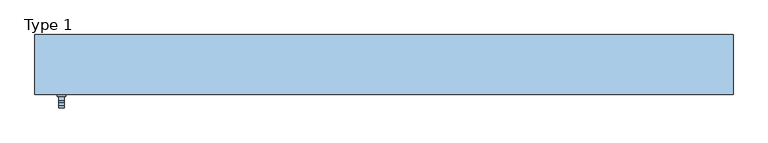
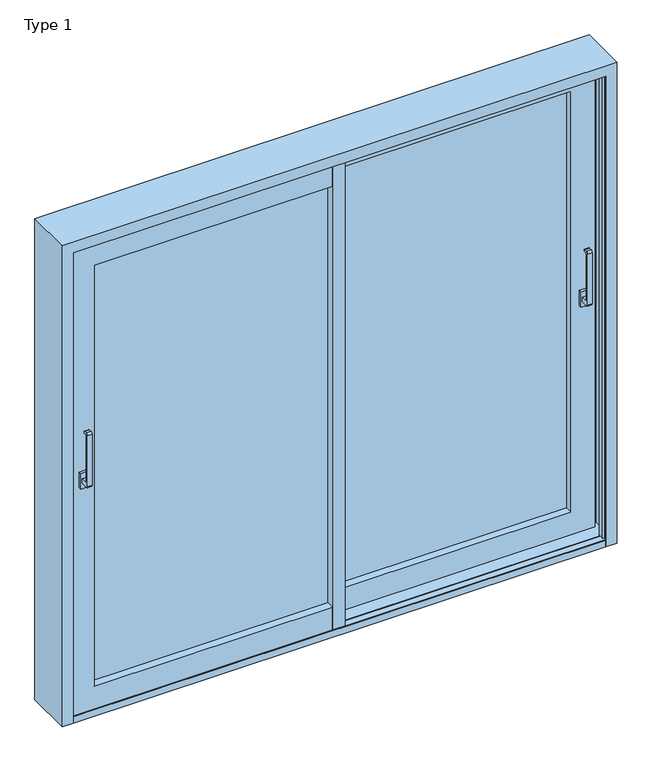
"""IFC4 building model written with IfcOpenShell, lengths in millimetres: window geometry, ETEM_ES70_Double_Fly Screen_NI_Lift_Sliding_FR : Type 1."""

from ifc_helpers import new_model, si_unit, point, frame, frame_2d, origin, place, context, project, spatial, polyline, circle_curve, ellipse_curve, trimmed, segment, composite_curve, outline, extrude, faceted_brep, source, transform, mapped, element, save
from ifc_brep_helpers import plane_surface, cylinder_surface, revolved_surface, advanced_brep


def type_1_b3d38bae(model_context):
    return source(origin(), model_context, "Body", "SolidModel", [
        extrude(outline(polyline([(1123.5, 7.6), (1093.5, 7.6), (1093.5, 20.6), (1123.5, 20.6), (1123.5, 7.6)])), frame((0.0, 0.0, 1065.0), z_axis=(0.0, 0.0, 1.0), x_axis=(1.0, 0.0, 0.0)), (0.0, 0.0, 1.0), 70.0),
        extrude(outline(composite_curve([segment(polyline([(7.6, 1090.0), (-23.9736848, 1090.0)]), True, "CONTINUOUS"), segment(trimmed(circle_curve(frame_2d((-23.9736848, 1098.4263152)), 8.4263152), [point((-23.9736848, 1090.0))], [point((-32.4, 1098.4263152))], False, "CARTESIAN"), True, "CONTINUOUS"), segment(polyline([(-32.4, 1098.4263152), (-32.4, 1331.5736848)]), True, "CONTINUOUS"), segment(trimmed(circle_curve(frame_2d((-23.9736848, 1331.5736848)), 8.4263152), [point((-32.4, 1331.5736848))], [point((-23.9736848, 1340.0))], False, "CARTESIAN"), True, "CONTINUOUS"), segment(polyline([(-23.9736848, 1340.0), (-12.4, 1340.0)]), True, "CONTINUOUS"), segment(trimmed(circle_curve(frame_2d((-12.4, 1335.0)), 5.0), [point((-12.4, 1340.0))], [point((-12.4, 1330.0))], False, "CARTESIAN"), True, "CONTINUOUS"), segment(polyline([(-12.4, 1330.0), (-18.8644661, 1330.0)]), True, "CONTINUOUS"), segment(trimmed(circle_curve(frame_2d((-18.8644661, 1326.4644661)), 3.5355339), [point((-18.8644661, 1330.0))], [point((-22.4, 1326.4644661))], True, "CARTESIAN"), True, "CONTINUOUS"), segment(polyline([(-22.4, 1326.4644661), (-22.4, 1113.5355339)]), True, "CONTINUOUS"), segment(trimmed(circle_curve(frame_2d((-18.8644661, 1113.5355339)), 3.5355339), [point((-22.4, 1113.5355339))], [point((-18.8644661, 1110.0))], True, "CARTESIAN"), True, "CONTINUOUS"), segment(polyline([(-18.8644661, 1110.0), (7.6, 1110.0), (7.6, 1090.0)]), True, "CONTINUOUS")], self_intersect=False)), frame((1098.5, 0.0, 0.0), z_axis=(1.0, 0.0, 0.0), x_axis=(0.0, 1.0, 0.0)), (0.0, 0.0, 1.0), 20.0),
        extrude(outline(polyline([(-1093.5, -82.4), (-1123.5, -82.4), (-1123.5, -69.4), (-1093.5, -69.4), (-1093.5, -82.4)])), frame((0.0, 0.0, 1065.0), z_axis=(0.0, 0.0, 1.0), x_axis=(1.0, 0.0, 0.0)), (0.0, 0.0, 1.0), 70.0),
        extrude(outline(composite_curve([segment(polyline([(-82.4, 1090.0), (-113.9736848, 1090.0)]), True, "CONTINUOUS"), segment(trimmed(circle_curve(frame_2d((-113.9736848, 1098.4263152)), 8.4263152), [point((-113.9736848, 1090.0))], [point((-122.4, 1098.4263152))], False, "CARTESIAN"), True, "CONTINUOUS"), segment(polyline([(-122.4, 1098.4263152), (-122.4, 1331.5736848)]), True, "CONTINUOUS"), segment(trimmed(circle_curve(frame_2d((-113.9736848, 1331.5736848)), 8.4263152), [point((-122.4, 1331.5736848))], [point((-113.9736848, 1340.0))], False, "CARTESIAN"), True, "CONTINUOUS"), segment(polyline([(-113.9736848, 1340.0), (-102.4, 1340.0)]), True, "CONTINUOUS"), segment(trimmed(circle_curve(frame_2d((-102.4, 1335.0)), 5.0), [point((-102.4, 1340.0))], [point((-102.4, 1330.0))], False, "CARTESIAN"), True, "CONTINUOUS"), segment(polyline([(-102.4, 1330.0), (-108.8644661, 1330.0)]), True, "CONTINUOUS"), segment(trimmed(circle_curve(frame_2d((-108.8644661, 1326.4644661)), 3.5355339), [point((-108.8644661, 1330.0))], [point((-112.4, 1326.4644661))], True, "CARTESIAN"), True, "CONTINUOUS"), segment(polyline([(-112.4, 1326.4644661), (-112.4, 1113.5355339)]), True, "CONTINUOUS"), segment(trimmed(circle_curve(frame_2d((-108.8644661, 1113.5355339)), 3.5355339), [point((-112.4, 1113.5355339))], [point((-108.8644661, 1110.0))], True, "CARTESIAN"), True, "CONTINUOUS"), segment(polyline([(-108.8644661, 1110.0), (-82.4, 1110.0), (-82.4, 1090.0)]), True, "CONTINUOUS")], self_intersect=False)), frame((-1118.5, 0.0, 0.0), z_axis=(1.0, 0.0, 0.0), x_axis=(0.0, 1.0, 0.0)), (0.0, 0.0, 1.0), 20.0),
        faceted_brep([(-27.0, -69.4, 133.0647316), (-27.0, -69.4, 30.0647316), (-27.0, -57.0, 30.0647316), (-27.0, -57.0, 61.1647316), (-27.0, -11.8, 61.1647316), (-27.0, -11.8, 30.0647316), (-27.0, 0.6, 30.0647316), (-27.0, 0.6, 133.0647316), (-1058.0, -69.4, 133.0647316), (-1058.0, -69.4, 2058.0), (-27.0, -69.4, 2058.0), (-27.0, -69.4, 2161.0), (-1161.0, -69.4, 2161.0), (-1161.0, -69.4, 30.0647316), (-1161.0, -57.0, 30.0647316), (-1161.0, -57.0, 2161.0), (-27.0, -57.0, 2161.0), (-27.0, -57.0, 2129.9), (-1129.9, -57.0, 2129.9), (-1129.9, -57.0, 61.1647316), (-1129.9, -11.8, 61.1647316), (-1129.9, -11.8, 2129.9), (-27.0, -11.8, 2129.9), (-27.0, -11.8, 2161.0), (-1161.0, -11.8, 2161.0), (-1161.0, -11.8, 30.0647316), (-1161.0, 0.6, 30.0647316), (-1161.0, 0.6, 2161.0), (-27.0, 0.6, 2161.0), (-27.0, 0.6, 2058.0), (-1058.0, 0.6, 2058.0), (-1058.0, 0.6, 133.0647316)], [[[0, 1, 2, 3, 4, 5, 6, 7]], [[1, 0, 8, 9, 10, 11, 12, 13]], [[2, 1, 13, 14]], [[3, 2, 14, 15, 16, 17, 18, 19]], [[4, 3, 19, 20]], [[5, 4, 20, 21, 22, 23, 24, 25]], [[6, 5, 25, 26]], [[7, 6, 26, 27, 28, 29, 30, 31]], [[0, 7, 31, 8]], [[8, 31, 30, 9]], [[14, 13, 12, 15]], [[20, 19, 18, 21]], [[26, 25, 24, 27]], [[10, 29, 28, 23, 22, 17, 16, 11]], [[15, 12, 11, 16]], [[21, 18, 17, 22]], [[27, 24, 23, 28]], [[9, 30, 29, 10]]]),
        extrude(outline(polyline([(27.0, -69.3992454), (-27.0, -69.3992454), (-27.0, 0.6007546), (18.6, 0.6007546), (18.6, 16.6007546), (27.0, 16.6007546), (27.0, -69.3992454)])), frame((0.0, 0.0, 30.0647316), z_axis=(0.0, 0.0, 1.0), x_axis=(1.0, 0.0, 0.0)), (0.0, 0.0, 1.0), 2130.9352684),
        extrude(outline(polyline([(-27.0, 90.6007546), (27.0, 90.6007546), (27.0, 20.6007546), (-18.6, 20.6007546), (-18.6, 4.6007546), (-27.0, 4.6007546), (-27.0, 90.6007546)])), frame((0.0, 0.0, 30.0647316), z_axis=(0.0, 0.0, 1.0), x_axis=(1.0, 0.0, 0.0)), (0.0, 0.0, 1.0), 2130.9352684),
        extrude(outline(polyline([(-27.0, -35.3992409), (-1058.0, -35.3992409), (-1058.0, -29.3992409), (-27.0, -29.3992409), (-27.0, -35.3992409)])), frame((0.0, 0.0, 133.0647316), z_axis=(0.0, 0.0, 1.0), x_axis=(1.0, 0.0, 0.0)), (0.0, 0.0, 1.0), 1924.9352684),
        extrude(outline(polyline([(27.0, 82.6007591), (1058.0, 82.6007591), (1058.0, 76.6007591), (27.0, 76.6007591), (27.0, 82.6007591)])), frame((0.0, 0.0, 133.0647316), z_axis=(0.0, 0.0, 1.0), x_axis=(1.0, 0.0, 0.0)), (0.0, 0.0, 1.0), 1924.9352684),
        faceted_brep([(-1200.0, -76.0, 0.0), (-1200.0, 130.0, 0.0), (-1183.7, 130.0, 0.0), (-1183.7, 118.1, 0.0), (-1152.0, 118.1, 0.0), (-1152.0, 109.1, 0.0), (-1183.7, 109.1, 0.0), (-1183.7, 60.1, 0.0), (-1160.0, 60.1, 0.0), (-1160.0, 74.1, 0.0), (-1152.0, 74.1, 0.0), (-1152.0, 51.1, 0.0), (-1183.7, 51.1, 0.0), (-1183.7, -29.9, 0.0), (-1152.0, -29.9, 0.0), (-1152.0, -52.9, 0.0), (-1160.0, -52.9, 0.0), (-1160.0, -38.9, 0.0), (-1183.7, -38.9, 0.0), (-1183.7, -72.2, 0.0), (-1152.0, -72.2, 0.0), (-1152.0, -76.0, 0.0), (-1200.0, -76.0, 2200.0), (-1200.0, 130.0, 2200.0), (1200.0, 130.0, 2200.0), (1200.0, 130.0, 0.0), (1183.7, 130.0, 0.0), (1183.7, 130.0, 2183.7), (-1183.7, 130.0, 2183.7), (-1183.7, 118.1, 2183.7), (1183.7, 118.1, 2183.7), (1183.7, 118.1, 0.0), (1152.0, 118.1, 0.0), (1152.0, 118.1, 2152.0), (-1152.0, 118.1, 2152.0), (-1152.0, 109.1, 2152.0), (1152.0, 109.1, 2152.0), (1152.0, 109.1, 0.0), (1183.7, 109.1, 0.0), (1183.7, 109.1, 2183.7), (-1183.7, 109.1, 2183.7), (-1183.7, 60.1, 2183.7), (1183.7, 60.1, 2183.7), (1183.7, 60.1, 0.0), (1160.0, 60.1, 0.0), (1160.0, 60.1, 2160.0), (-1160.0, 60.1, 2160.0), (-1160.0, 74.1, 2160.0), (1160.0, 74.1, 2160.0), (1160.0, 74.1, 0.0), (1152.0, 74.1, 0.0), (1152.0, 74.1, 2152.0), (-1152.0, 74.1, 2152.0), (-1152.0, 51.1, 2152.0), (1152.0, 51.1, 2152.0), (1152.0, 51.1, 0.0), (1183.7, 51.1, 0.0), (1183.7, 51.1, 2183.7), (-1183.7, 51.1, 2183.7), (-1183.7, -29.9, 2183.7), (1183.7, -29.9, 2183.7), (1183.7, -29.9, 0.0), (1152.0, -29.9, 0.0), (1152.0, -29.9, 2152.0), (-1152.0, -29.9, 2152.0), (-1152.0, -52.9, 2152.0), (1152.0, -52.9, 2152.0), (1152.0, -52.9, 0.0), (1160.0, -52.9, 0.0), (1160.0, -52.9, 2160.0), (-1160.0, -52.9, 2160.0), (-1160.0, -38.9, 2160.0), (1160.0, -38.9, 2160.0), (1160.0, -38.9, 0.0), (1183.7, -38.9, 0.0), (1183.7, -38.9, 2183.7), (-1183.7, -38.9, 2183.7), (-1183.7, -72.2, 2183.7), (1183.7, -72.2, 2183.7), (1183.7, -72.2, 0.0), (1152.0, -72.2, 0.0), (1152.0, -72.2, 2152.0), (-1152.0, -72.2, 2152.0), (-1152.0, -76.0, 2152.0), (1152.0, -76.0, 2152.0), (1152.0, -76.0, 0.0), (1200.0, -76.0, 0.0), (1200.0, -76.0, 2200.0)], [[[0, 1, 2, 3, 4, 5, 6, 7, 8, 9, 10, 11, 12, 13, 14, 15, 16, 17, 18, 19, 20, 21]], [[0, 22, 23, 1]], [[2, 1, 23, 24, 25, 26, 27, 28]], [[3, 2, 28, 29]], [[4, 3, 29, 30, 31, 32, 33, 34]], [[5, 4, 34, 35]], [[6, 5, 35, 36, 37, 38, 39, 40]], [[7, 6, 40, 41]], [[8, 7, 41, 42, 43, 44, 45, 46]], [[9, 8, 46, 47]], [[10, 9, 47, 48, 49, 50, 51, 52]], [[11, 10, 52, 53]], [[12, 11, 53, 54, 55, 56, 57, 58]], [[13, 12, 58, 59]], [[14, 13, 59, 60, 61, 62, 63, 64]], [[15, 14, 64, 65]], [[16, 15, 65, 66, 67, 68, 69, 70]], [[17, 16, 70, 71]], [[18, 17, 71, 72, 73, 74, 75, 76]], [[19, 18, 76, 77]], [[20, 19, 77, 78, 79, 80, 81, 82]], [[21, 20, 82, 83]], [[0, 21, 83, 84, 85, 86, 87, 22]], [[25, 86, 85, 80, 79, 74, 73, 68, 67, 62, 61, 56, 55, 50, 49, 44, 43, 38, 37, 32, 31, 26]], [[87, 86, 25, 24]], [[84, 81, 80, 85]], [[78, 75, 74, 79]], [[72, 69, 68, 73]], [[66, 63, 62, 67]], [[60, 57, 56, 61]], [[54, 51, 50, 55]], [[48, 45, 44, 49]], [[42, 39, 38, 43]], [[36, 33, 32, 37]], [[30, 27, 26, 31]], [[23, 22, 87, 24]], [[41, 40, 39, 42]], [[47, 46, 45, 48]], [[53, 52, 51, 54]], [[59, 58, 57, 60]], [[65, 64, 63, 66]], [[71, 70, 69, 72]], [[77, 76, 75, 78]], [[83, 82, 81, 84]], [[29, 28, 27, 30]], [[35, 34, 33, 36]]]),
        extrude(outline(polyline([(27.0, 60.6007591), (1058.0, 60.6007591), (1058.0, 54.6007591), (27.0, 54.6007591), (27.0, 60.6007591)])), frame((0.0, 0.0, 133.0647316), z_axis=(0.0, 0.0, 1.0), x_axis=(1.0, 0.0, 0.0)), (0.0, 0.0, 1.0), 1924.9352684),
        extrude(outline(polyline([(-27.0, -13.3992409), (-1058.0, -13.3992409), (-1058.0, -7.3992409), (-27.0, -7.3992409), (-27.0, -13.3992409)])), frame((0.0, 0.0, 133.0647316), z_axis=(0.0, 0.0, 1.0), x_axis=(1.0, 0.0, 0.0)), (0.0, 0.0, 1.0), 1924.9352684),
        extrude(outline(polyline([(-38.0, 102.6007546), (-1096.0, 102.6007546), (-1096.0, 103.6007546), (-38.0, 103.6007546), (-38.0, 102.6007546)])), frame((0.0, 0.0, 95.0647316), z_axis=(0.0, 0.0, 1.0), x_axis=(1.0, 0.0, 0.0)), (0.0, 0.0, 1.0), 2000.9352684),
        advanced_brep(
        [(-30.6, 98.8, 2103.4), (-30.6, 102.6138518, 2103.4), (-30.6, 102.6138518, 87.6647316), (-30.6, 98.8, 87.6647316), (-1103.4, 102.6138518, 2103.4), (-1103.4, 102.6138518, 87.6647316), (-38.0, 102.6138518, 95.0647316), (-1096.0, 102.6138518, 95.0647316), (-1096.0, 102.6138518, 2096.0), (-38.0, 102.6138518, 2096.0), (-1103.4, 98.8, 87.6647316), (-28.6, 98.8, 2105.4), (-1105.4, 98.8, 2105.4), (-1105.4, 98.8, 85.6647316), (-28.6, 98.8, 85.6647316), (-1103.4, 98.8, 2103.4), (-28.6543214, 99.9975359, 2105.3456786), (-28.6543214, 99.9975359, 85.719053), (-1105.3456786, 99.9975359, 85.719053), (-29.2, 100.5, 2104.8), (-29.2, 100.5, 86.2647316), (-1104.8, 100.5, 86.2647316), (-29.2, 106.6, 2104.8), (-29.2, 106.6, 86.2647316), (-1104.8, 106.6, 86.2647316), (-8.7, 106.6, 2125.3), (-1125.3, 106.6, 2125.3), (-1125.3, 106.6, 65.7647316), (-8.7, 106.6, 65.7647316), (-1104.8, 106.6, 2104.8), (-8.7, 97.6, 2125.3), (-8.7, 97.6, 65.7647316), (-1125.3, 97.6, 65.7647316), (27.0, 97.6, 2161.0), (-1161.0, 97.6, 2161.0), (-1161.0, 97.6, 30.0647316), (27.0, 97.6, 30.0647316), (-1125.3, 97.6, 2125.3), (27.0, 104.8, 2161.0), (27.0, 104.8, 30.0647316), (-1161.0, 104.8, 30.0647316), (-1161.0, 104.8, 2161.0), (14.8, 104.8, 2148.8), (-1148.8, 104.8, 2148.8), (-1148.8, 104.8, 42.2647316), (14.8, 104.8, 42.2647316), (14.8, 122.4, 2148.8), (14.8, 122.4, 42.2647316), (-1148.8, 122.4, 42.2647316), (27.0, 122.4, 2161.0), (-1161.0, 122.4, 2161.0), (-1161.0, 122.4, 30.0647316), (27.0, 122.4, 30.0647316), (-1148.8, 122.4, 2148.8), (27.0, 129.6, 2161.0), (27.0, 129.6, 30.0647316), (-1161.0, 129.6, 30.0647316), (-1161.0, 129.6, 2161.0), (-8.7, 129.6, 2125.3), (-1125.3, 129.6, 2125.3), (-1125.3, 129.6, 65.7647316), (-8.7, 129.6, 65.7647316), (-8.7, 120.4, 2125.3), (-8.7, 120.4, 65.7647316), (-1125.3, 120.4, 65.7647316), (-1125.3, 120.4, 2125.3), (-25.5, 120.4, 2108.5), (-1108.5, 120.4, 2108.5), (-1108.5, 120.4, 82.5647316), (-25.5, 120.4, 82.5647316), (-25.5, 129.6, 2108.5), (-25.5, 129.6, 82.5647316), (-1108.5, 129.6, 82.5647316), (-1108.5, 129.6, 2108.5), (-38.0, 129.6, 2096.0), (-1096.0, 129.6, 2096.0), (-1096.0, 129.6, 95.0647316), (-38.0, 129.6, 95.0647316), (-1105.3456786, 99.9975359, 2105.3456786), (-1104.8, 100.5, 2104.8)],
        [
            (0, 1),
            (1, 2),
            (2, 3),
            (3, 0),
            (1, 4),
            (4, 5),
            (5, 2),
            (6, 7),
            (7, 8),
            (8, 9),
            (9, 6),
            (5, 10),
            (10, 3),
            (11, 12),
            (12, 13),
            (13, 14),
            (14, 11),
            (10, 15),
            (15, 0),
            (16, 11, ellipse_curve(frame((-28.6, 99.4, 2105.4), z_axis=(0.7071067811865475, 0.0, -0.7071067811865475), x_axis=(0.7071067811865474, 0.0, 0.7071067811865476)), 0.8485281, 0.6)),
            (14, 17, ellipse_curve(frame((-28.6, 99.4, 85.6647316), z_axis=(0.7071067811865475, 0.0, 0.7071067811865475), x_axis=(-0.7071067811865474, 0.0, 0.7071067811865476)), 0.8485281, 0.6)),
            (17, 16),
            (13, 18, ellipse_curve(frame((-1105.4, 99.4, 85.6647316), z_axis=(0.7071067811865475, 0.0, -0.7071067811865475), x_axis=(0.7071067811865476, 0.0, 0.7071067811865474)), 0.8485281, 0.6)),
            (18, 17),
            (19, 16, ellipse_curve(frame((-28.7, 100.5, 2105.3), z_axis=(-0.7071067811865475, 0.0, 0.7071067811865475), x_axis=(-0.7071067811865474, 0.0, -0.7071067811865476)), 0.7071068, 0.5)),
            (17, 20, ellipse_curve(frame((-28.7, 100.5, 85.7647316), z_axis=(-0.7071067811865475, 0.0, -0.7071067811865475), x_axis=(0.7071067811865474, 0.0, -0.7071067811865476)), 0.7071068, 0.5)),
            (20, 19),
            (18, 21, ellipse_curve(frame((-1105.3, 100.5, 85.7647316), z_axis=(-0.7071067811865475, 0.0, 0.7071067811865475), x_axis=(-0.7071067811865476, 0.0, -0.7071067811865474)), 0.7071068, 0.5)),
            (21, 20),
            (22, 19),
            (20, 23),
            (23, 22),
            (21, 24),
            (24, 23),
            (25, 26),
            (26, 27),
            (27, 28),
            (28, 25),
            (24, 29),
            (29, 22),
            (30, 25),
            (28, 31),
            (31, 30),
            (27, 32),
            (32, 31),
            (33, 34),
            (34, 35),
            (35, 36),
            (36, 33),
            (32, 37),
            (37, 30),
            (38, 33),
            (36, 39),
            (39, 38),
            (35, 40),
            (40, 39),
            (40, 41),
            (41, 38),
            (42, 43),
            (43, 44),
            (44, 45),
            (45, 42),
            (46, 42),
            (45, 47),
            (47, 46),
            (44, 48),
            (48, 47),
            (49, 50),
            (50, 51),
            (51, 52),
            (52, 49),
            (48, 53),
            (53, 46),
            (54, 49),
            (52, 55),
            (55, 54),
            (51, 56),
            (56, 55),
            (56, 57),
            (57, 54),
            (58, 59),
            (59, 60),
            (60, 61),
            (61, 58),
            (62, 58),
            (61, 63),
            (63, 62),
            (60, 64),
            (64, 63),
            (64, 65),
            (65, 62),
            (66, 67),
            (67, 68),
            (68, 69),
            (69, 66),
            (70, 66),
            (69, 71),
            (71, 70),
            (68, 72),
            (72, 71),
            (72, 73),
            (73, 70),
            (74, 75),
            (75, 76),
            (76, 77),
            (77, 74),
            (9, 74),
            (77, 6),
            (76, 7),
            (4, 15),
            (12, 78, ellipse_curve(frame((-1105.4, 99.4, 2105.4), z_axis=(-0.7071067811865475, 0.0, -0.7071067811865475), x_axis=(0.7071067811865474, 0.0, -0.7071067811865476)), 0.8485281, 0.6)),
            (78, 18),
            (78, 79, ellipse_curve(frame((-1105.3, 100.5, 2105.3), z_axis=(0.7071067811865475, 0.0, 0.7071067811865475), x_axis=(-0.7071067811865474, 0.0, 0.7071067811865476)), 0.7071068, 0.5)),
            (79, 21),
            (79, 29),
            (26, 37),
            (34, 41),
            (43, 53),
            (50, 57),
            (59, 65),
            (67, 73),
            (75, 8),
            (16, 78),
            (19, 79),
        ],
        [
            plane_surface(frame((-30.6, 102.6138518, 2103.4), z_axis=(-1.0, 0.0, 0.0), x_axis=(0.0, 0.0, -1.0))),
            plane_surface(frame((-1096.0, 102.6138518, 2096.0), z_axis=(0.0, -1.0, 0.0), x_axis=(1.0, 0.0, 0.0))),
            plane_surface(frame((-30.6, 102.6138518, 87.6647316), z_axis=(0.0, 0.0, 1.0), x_axis=(-1.0, 0.0, 0.0))),
            plane_surface(frame((-1103.4, 98.8, 2103.4), z_axis=(0.0, -1.0, 0.0), x_axis=(1.0, 0.0, 0.0))),
            cylinder_surface(frame((-28.6, 99.4, 2161.0), z_axis=(0.0, 0.0, 1.0), x_axis=(1.0, 0.0, 0.0)), 0.6),
            cylinder_surface(frame((27.0, 99.4, 85.6647316), z_axis=(1.0, 0.0, 0.0), x_axis=(0.0, 0.0, -1.0)), 0.6),
            revolved_surface(polyline([(-28.2, 100.5, 85.26473158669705), (-28.2, 100.5, 2105.8000000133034)]), (-28.7, 100.5, 2161.0), (0.0, 0.0, -1.0)),
            revolved_surface(polyline([(-1105.8000000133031, 100.5, 85.2647316), (-28.19999998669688, 100.5, 85.2647316)]), (27.0, 100.5, 85.7647316), (-1.0, 0.0, 0.0)),
            plane_surface(frame((-29.2, 100.5, 2104.8), z_axis=(1.0, 0.0, 0.0), x_axis=(0.0, 0.0, -1.0))),
            plane_surface(frame((-29.2, 100.5, 86.2647316), z_axis=(0.0, 0.0, -1.0), x_axis=(-1.0, 0.0, 0.0))),
            plane_surface(frame((-1104.8, 106.6, 2104.8), z_axis=(0.0, -1.0, 0.0), x_axis=(1.0, 0.0, 0.0))),
            plane_surface(frame((-8.7, 106.6, 2125.3), z_axis=(-1.0, 0.0, 0.0), x_axis=(0.0, 0.0, -1.0))),
            plane_surface(frame((-8.7, 106.6, 65.7647316), z_axis=(0.0, 0.0, 1.0), x_axis=(-1.0, 0.0, 0.0))),
            plane_surface(frame((-1125.3, 97.6, 2125.3), z_axis=(0.0, -1.0, 0.0), x_axis=(1.0, 0.0, 0.0))),
            plane_surface(frame((27.0, 97.6, 2161.0), z_axis=(1.0, 0.0, 0.0), x_axis=(0.0, 0.0, -1.0))),
            plane_surface(frame((27.0, 97.6, 30.0647316), z_axis=(0.0, 0.0, -1.0), x_axis=(-1.0, 0.0, 0.0))),
            plane_surface(frame((-1161.0, 104.8, 2161.0), z_axis=(0.0, 1.0, 0.0), x_axis=(1.0, 0.0, 0.0))),
            plane_surface(frame((14.8, 104.8, 2148.8), z_axis=(1.0, 0.0, 0.0), x_axis=(0.0, 0.0, -1.0))),
            plane_surface(frame((14.8, 104.8, 42.2647316), z_axis=(0.0, 0.0, -1.0), x_axis=(-1.0, 0.0, 0.0))),
            plane_surface(frame((-1148.8, 122.4, 2148.8), z_axis=(0.0, -1.0, 0.0), x_axis=(1.0, 0.0, 0.0))),
            plane_surface(frame((27.0, 122.4, 2161.0), z_axis=(1.0, 0.0, 0.0), x_axis=(0.0, 0.0, -1.0))),
            plane_surface(frame((27.0, 122.4, 30.0647316), z_axis=(0.0, 0.0, -1.0), x_axis=(-1.0, 0.0, 0.0))),
            plane_surface(frame((-1161.0, 129.6, 2161.0), z_axis=(0.0, 1.0, 0.0), x_axis=(1.0, 0.0, 0.0))),
            plane_surface(frame((-8.7, 129.6, 2125.3), z_axis=(-1.0, 0.0, 0.0), x_axis=(0.0, 0.0, -1.0))),
            plane_surface(frame((-8.7, 129.6, 65.7647316), z_axis=(0.0, 0.0, 1.0), x_axis=(-1.0, 0.0, 0.0))),
            plane_surface(frame((-1125.3, 120.4, 2125.3), z_axis=(0.0, 1.0, 0.0), x_axis=(1.0, 0.0, 0.0))),
            plane_surface(frame((-25.5, 120.4, 2108.5), z_axis=(1.0, 0.0, 0.0), x_axis=(0.0, 0.0, -1.0))),
            plane_surface(frame((-25.5, 120.4, 82.5647316), z_axis=(0.0, 0.0, -1.0), x_axis=(-1.0, 0.0, 0.0))),
            plane_surface(frame((-1108.5, 129.6, 2108.5), z_axis=(0.0, 1.0, 0.0), x_axis=(1.0, 0.0, 0.0))),
            plane_surface(frame((-38.0, 129.6, 2096.0), z_axis=(-1.0, 0.0, 0.0), x_axis=(0.0, 0.0, -1.0))),
            plane_surface(frame((-38.0, 129.6, 95.0647316), z_axis=(0.0, 0.0, 1.0), x_axis=(-1.0, 0.0, 0.0))),
            plane_surface(frame((-1103.4, 102.6138518, 87.6647316), z_axis=(1.0, 0.0, 0.0), x_axis=(0.0, 0.0, 1.0))),
            cylinder_surface(frame((-1105.4, 99.4, 30.0647316), z_axis=(0.0, 0.0, -1.0), x_axis=(-1.0, 0.0, 0.0)), 0.6),
            revolved_surface(polyline([(-1105.8, 100.5, 2105.8000000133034), (-1105.8, 100.5, 85.26473158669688)]), (-1105.3, 100.5, 30.0647316), (0.0, 0.0, 1.0)),
            plane_surface(frame((-1104.8, 100.5, 86.2647316), z_axis=(-1.0, 0.0, 0.0), x_axis=(0.0, 0.0, 1.0))),
            plane_surface(frame((-1125.3, 106.6, 65.7647316), z_axis=(1.0, 0.0, 0.0), x_axis=(0.0, 0.0, 1.0))),
            plane_surface(frame((-1161.0, 97.6, 30.0647316), z_axis=(-1.0, 0.0, 0.0), x_axis=(0.0, 0.0, 1.0))),
            plane_surface(frame((-1148.8, 104.8, 42.2647316), z_axis=(-1.0, 0.0, 0.0), x_axis=(0.0, 0.0, 1.0))),
            plane_surface(frame((-1161.0, 122.4, 30.0647316), z_axis=(-1.0, 0.0, 0.0), x_axis=(0.0, 0.0, 1.0))),
            plane_surface(frame((-1125.3, 129.6, 65.7647316), z_axis=(1.0, 0.0, 0.0), x_axis=(0.0, 0.0, 1.0))),
            plane_surface(frame((-1108.5, 120.4, 82.5647316), z_axis=(-1.0, 0.0, 0.0), x_axis=(0.0, 0.0, 1.0))),
            plane_surface(frame((-1096.0, 129.6, 95.0647316), z_axis=(1.0, 0.0, 0.0), x_axis=(0.0, 0.0, 1.0))),
            plane_surface(frame((-1103.4, 102.6138518, 2103.4), z_axis=(0.0, 0.0, -1.0), x_axis=(1.0, 0.0, 0.0))),
            cylinder_surface(frame((-1161.0, 99.4, 2105.4), z_axis=(-1.0, 0.0, 0.0), x_axis=(0.0, 0.0, 1.0)), 0.6),
            revolved_surface(polyline([(-28.199999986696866, 100.5, 2105.8), (-1105.8000000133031, 100.5, 2105.8)]), (-1161.0, 100.5, 2105.3), (1.0, 0.0, 0.0)),
            plane_surface(frame((-1104.8, 100.5, 2104.8), z_axis=(0.0, 0.0, 1.0), x_axis=(1.0, 0.0, 0.0))),
            plane_surface(frame((-1125.3, 106.6, 2125.3), z_axis=(0.0, 0.0, -1.0), x_axis=(1.0, 0.0, 0.0))),
            plane_surface(frame((-1161.0, 97.6, 2161.0), z_axis=(0.0, 0.0, 1.0), x_axis=(1.0, 0.0, 0.0))),
            plane_surface(frame((-1148.8, 104.8, 2148.8), z_axis=(0.0, 0.0, 1.0), x_axis=(1.0, 0.0, 0.0))),
            plane_surface(frame((-1161.0, 122.4, 2161.0), z_axis=(0.0, 0.0, 1.0), x_axis=(1.0, 0.0, 0.0))),
            plane_surface(frame((-1125.3, 129.6, 2125.3), z_axis=(0.0, 0.0, -1.0), x_axis=(1.0, 0.0, 0.0))),
            plane_surface(frame((-1108.5, 120.4, 2108.5), z_axis=(0.0, 0.0, 1.0), x_axis=(1.0, 0.0, 0.0))),
            plane_surface(frame((-1096.0, 129.6, 2096.0), z_axis=(0.0, 0.0, -1.0), x_axis=(1.0, 0.0, 0.0))),
        ],
        [
            (0, [[1, 2, 3, 4]]),
            (1, [[5, 6, 7, -2], [8, 9, 10, 11]]),
            (2, [[-3, -7, 12, 13]]),
            (3, [[14, 15, 16, 17], [-13, 18, 19, -4]]),
            (4, [[20, -17, 21, 22]]),
            (5, [[-21, -16, 23, 24]]),
            (6, [[25, -22, 26, 27]]),
            (7, [[-26, -24, 28, 29]]),
            (8, [[30, -27, 31, 32]]),
            (9, [[-31, -29, 33, 34]]),
            (10, [[35, 36, 37, 38], [-34, 39, 40, -32]]),
            (11, [[41, -38, 42, 43]]),
            (12, [[-42, -37, 44, 45]]),
            (13, [[46, 47, 48, 49], [-45, 50, 51, -43]]),
            (14, [[52, -49, 53, 54]]),
            (15, [[-53, -48, 55, 56]]),
            (16, [[-56, 57, 58, -54], [59, 60, 61, 62]]),
            (17, [[63, -62, 64, 65]]),
            (18, [[-64, -61, 66, 67]]),
            (19, [[68, 69, 70, 71], [-67, 72, 73, -65]]),
            (20, [[74, -71, 75, 76]]),
            (21, [[-75, -70, 77, 78]]),
            (22, [[-78, 79, 80, -76], [81, 82, 83, 84]]),
            (23, [[85, -84, 86, 87]]),
            (24, [[-86, -83, 88, 89]]),
            (25, [[-89, 90, 91, -87], [92, 93, 94, 95]]),
            (26, [[96, -95, 97, 98]]),
            (27, [[-97, -94, 99, 100]]),
            (28, [[-100, 101, 102, -98], [103, 104, 105, 106]]),
            (29, [[107, -106, 108, -11]]),
            (30, [[-108, -105, 109, -8]]),
            (31, [[-12, -6, 110, -18]]),
            (32, [[-23, -15, 111, 112]]),
            (33, [[-28, -112, 113, 114]]),
            (34, [[-33, -114, 115, -39]]),
            (35, [[-44, -36, 116, -50]]),
            (36, [[-55, -47, 117, -57]]),
            (37, [[-66, -60, 118, -72]]),
            (38, [[-77, -69, 119, -79]]),
            (39, [[-88, -82, 120, -90]]),
            (40, [[-99, -93, 121, -101]]),
            (41, [[-109, -104, 122, -9]]),
            (42, [[-110, -5, -1, -19]]),
            (43, [[-111, -14, -20, 123]]),
            (44, [[-113, -123, -25, 124]]),
            (45, [[-115, -124, -30, -40]]),
            (46, [[-116, -35, -41, -51]]),
            (47, [[-117, -46, -52, -58]]),
            (48, [[-118, -59, -63, -73]]),
            (49, [[-119, -68, -74, -80]]),
            (50, [[-120, -81, -85, -91]]),
            (51, [[-121, -92, -96, -102]]),
            (52, [[-122, -103, -107, -10]]),
        ],
    ),
        faceted_brep([(27.0, 90.6, 133.0647316), (27.0, 90.6, 30.0647316), (27.0, 78.2, 30.0647316), (27.0, 78.2, 61.1647316), (27.0, 33.0, 61.1647316), (27.0, 33.0, 30.0647316), (27.0, 20.6, 30.0647316), (27.0, 20.6, 133.0647316), (1058.0, 90.6, 133.0647316), (1058.0, 90.6, 2058.0), (27.0, 90.6, 2058.0), (27.0, 90.6, 2161.0), (1161.0, 90.6, 2161.0), (1161.0, 90.6, 30.0647316), (1161.0, 78.2, 30.0647316), (1161.0, 78.2, 2161.0), (27.0, 78.2, 2161.0), (27.0, 78.2, 2129.9), (1129.9, 78.2, 2129.9), (1129.9, 78.2, 61.1647316), (1129.9, 33.0, 61.1647316), (1129.9, 33.0, 2129.9), (27.0, 33.0, 2129.9), (27.0, 33.0, 2161.0), (1161.0, 33.0, 2161.0), (1161.0, 33.0, 30.0647316), (1161.0, 20.6, 30.0647316), (1161.0, 20.6, 2161.0), (27.0, 20.6, 2161.0), (27.0, 20.6, 2058.0), (1058.0, 20.6, 2058.0), (1058.0, 20.6, 133.0647316)], [[[0, 1, 2, 3, 4, 5, 6, 7]], [[1, 0, 8, 9, 10, 11, 12, 13]], [[2, 1, 13, 14]], [[3, 2, 14, 15, 16, 17, 18, 19]], [[4, 3, 19, 20]], [[5, 4, 20, 21, 22, 23, 24, 25]], [[6, 5, 25, 26]], [[7, 6, 26, 27, 28, 29, 30, 31]], [[0, 7, 31, 8]], [[8, 31, 30, 9]], [[14, 13, 12, 15]], [[20, 19, 18, 21]], [[26, 25, 24, 27]], [[10, 29, 28, 23, 22, 17, 16, 11]], [[15, 12, 11, 16]], [[21, 18, 17, 22]], [[27, 24, 23, 28]], [[9, 30, 29, 10]]]),
        faceted_brep([(1183.7, 127.9910847, 0.0), (-1183.7, 127.9910847, 0.0), (-1183.7, 127.9910847, 25.0), (1183.7, 127.9910847, 25.0), (-1183.7, 118.1, 25.0), (-1152.0, 118.1, 25.0), (-1152.0, 115.9910847, 25.0), (1152.0, 115.9910847, 25.0), (1152.0, 118.1, 25.0), (1183.7, 118.1, 25.0), (-1152.0, 115.9910847, 21.0), (1152.0, 115.9910847, 21.0), (-1152.0, 110.9910847, 21.0), (1152.0, 110.9910847, 21.0), (-1152.0, 110.9910847, 25.0), (1152.0, 110.9910847, 25.0), (-1152.0, 109.1, 25.0), (-1183.7, 109.1, 25.0), (-1183.7, 60.1, 25.0), (-1160.0, 60.1, 25.0), (-1160.0, 74.1, 25.0), (-1152.0, 74.1, 25.0), (-1152.0, 57.9910847, 25.0), (1152.0, 57.9910847, 25.0), (1152.0, 74.1, 25.0), (1160.0, 74.1, 25.0), (1160.0, 60.1, 25.0), (1183.7, 60.1, 25.0), (1183.7, 109.1, 25.0), (1152.0, 109.1, 25.0), (-1152.0, 57.9910847, 21.0), (1152.0, 57.9910847, 21.0), (-1152.0, 52.9910847, 21.0), (1152.0, 52.9910847, 21.0), (-1152.0, 52.9910847, 25.0), (1152.0, 52.9910847, 25.0), (-1152.0, 51.1, 25.0), (-1183.7, 51.1, 25.0), (-1183.7, -29.9, 25.0), (-1152.0, -29.9, 25.0), (-1152.0, -32.0089153, 25.0), (1152.0, -32.0089153, 25.0), (1152.0, -29.9, 25.0), (1183.7, -29.9, 25.0), (1183.7, 51.1, 25.0), (1152.0, 51.1, 25.0), (-1152.0, -32.0089153, 21.0), (1152.0, -32.0089153, 21.0), (-1152.0, -36.8089153, 21.0), (1152.0, -36.8089153, 21.0), (-1152.0, -36.8089153, 25.0), (1152.0, -36.8089153, 25.0), (-1152.0, -52.9, 25.0), (-1160.0, -52.9, 25.0), (-1160.0, -38.9, 25.0), (-1183.7, -38.9, 25.0), (-1183.7, -72.0089153, 25.0), (-1152.0, -72.0089153, 25.0), (1152.0, -72.0089153, 25.0), (1183.7, -72.0089153, 25.0), (1183.7, -38.9, 25.0), (1160.0, -38.9, 25.0), (1160.0, -52.9, 25.0), (1152.0, -52.9, 25.0), (-1152.0, -72.0089153, 30.0), (1152.0, -72.0089153, 30.0), (-1152.0, -76.0, 30.0), (1152.0, -76.0, 30.0), (-1152.0, -76.0, 0.0), (1152.0, -76.0, 0.0), (1183.7, 118.1, 0.0), (1152.0, 118.1, 0.0), (1152.0, 109.1, 0.0), (1183.7, 109.1, 0.0), (1183.7, 60.1, 0.0), (1160.0, 60.1, 0.0), (1160.0, 74.1, 0.0), (1152.0, 74.1, 0.0), (1152.0, 51.1, 0.0), (1183.7, 51.1, 0.0), (1183.7, -29.9, 0.0), (1152.0, -29.9, 0.0), (1152.0, -52.9, 0.0), (1160.0, -52.9, 0.0), (1160.0, -38.9, 0.0), (1183.7, -38.9, 0.0), (1183.7, -72.0089153, 0.0), (1152.0, -72.0089153, 0.0), (-1152.0, -72.0089153, 0.0), (-1183.7, -72.0089153, 0.0), (-1183.7, -38.9, 0.0), (-1160.0, -38.9, 0.0), (-1160.0, -52.9, 0.0), (-1152.0, -52.9, 0.0), (-1152.0, -29.9, 0.0), (-1183.7, -29.9, 0.0), (-1183.7, 51.1, 0.0), (-1152.0, 51.1, 0.0), (-1152.0, 74.1, 0.0), (-1160.0, 74.1, 0.0), (-1160.0, 60.1, 0.0), (-1183.7, 60.1, 0.0), (-1183.7, 109.1, 0.0), (-1152.0, 109.1, 0.0), (-1152.0, 118.1, 0.0), (-1183.7, 118.1, 0.0)], [[[0, 1, 2, 3]], [[3, 2, 4, 5, 6, 7, 8, 9]], [[7, 6, 10, 11]], [[11, 10, 12, 13]], [[13, 12, 14, 15]], [[15, 14, 16, 17, 18, 19, 20, 21, 22, 23, 24, 25, 26, 27, 28, 29]], [[23, 22, 30, 31]], [[31, 30, 32, 33]], [[33, 32, 34, 35]], [[35, 34, 36, 37, 38, 39, 40, 41, 42, 43, 44, 45]], [[41, 40, 46, 47]], [[47, 46, 48, 49]], [[49, 48, 50, 51]], [[51, 50, 52, 53, 54, 55, 56, 57, 58, 59, 60, 61, 62, 63]], [[58, 57, 64, 65]], [[65, 64, 66, 67]], [[67, 66, 68, 69]], [[1, 0, 70, 71, 72, 73, 74, 75, 76, 77, 78, 79, 80, 81, 82, 83, 84, 85, 86, 87, 69, 68, 88, 89, 90, 91, 92, 93, 94, 95, 96, 97, 98, 99, 100, 101, 102, 103, 104, 105]], [[57, 88, 68, 66, 64]], [[88, 57, 56, 89]], [[89, 56, 55, 90]], [[90, 55, 54, 91]], [[91, 54, 53, 92]], [[92, 53, 52, 93]], [[93, 52, 50, 48, 46, 40, 39, 94]], [[94, 39, 38, 95]], [[95, 38, 37, 96]], [[96, 37, 36, 97]], [[97, 36, 34, 32, 30, 22, 21, 98]], [[98, 21, 20, 99]], [[99, 20, 19, 100]], [[100, 19, 18, 101]], [[101, 18, 17, 102]], [[102, 17, 16, 103]], [[103, 16, 14, 12, 10, 6, 5, 104]], [[104, 5, 4, 105]], [[105, 4, 2, 1]], [[9, 70, 0, 3]], [[70, 9, 8, 71]], [[71, 8, 7, 11, 13, 15, 29, 72]], [[72, 29, 28, 73]], [[73, 28, 27, 74]], [[74, 27, 26, 75]], [[75, 26, 25, 76]], [[76, 25, 24, 77]], [[77, 24, 23, 31, 33, 35, 45, 78]], [[78, 45, 44, 79]], [[79, 44, 43, 80]], [[80, 43, 42, 81]], [[81, 42, 41, 47, 49, 51, 63, 82]], [[82, 63, 62, 83]], [[83, 62, 61, 84]], [[84, 61, 60, 85]], [[59, 86, 85, 60]], [[86, 59, 58, 87]], [[87, 58, 65, 67, 69]]]),
    ])


if __name__ == "__main__":
    model = new_model("IFC4")
    model_context = context("Model", 3, world=origin())
    ifc_project = project(units=[si_unit("LENGTHUNIT", "METRE", prefix="MILLI")], contexts=[model_context])
    site = spatial("IfcSite", under=ifc_project)
    building = spatial("IfcBuilding", under=site)
    placement = place(None, origin())
    type_1_shape = type_1_b3d38bae(model_context)
    element("IfcWindow", 1, ObjectType="ETEM_ES70_Double_Fly Screen_NI_Lift_Sliding_FR : Type 1", at=placement, inside=building, context=model_context, shape_type="MappedRepresentation", body=[
        mapped(type_1_shape, transform((0.0, 0.0, 0.0), x_axis=(1.0, 0.0, 0.0), y_axis=(0.0, 1.0, 0.0), z_axis=(0.0, 0.0, 1.0))),
    ])
    save(model, "model.ifc")
